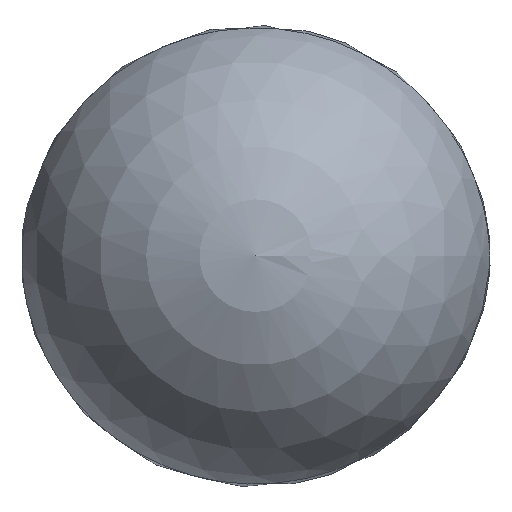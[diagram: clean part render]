
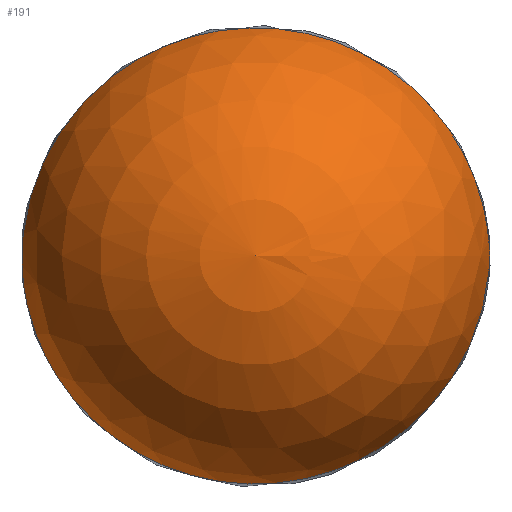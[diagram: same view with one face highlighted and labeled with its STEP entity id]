
A CAD part, top view. The second image highlights one B-rep face of the part: STEP entity #191.
In plain terms, the highlighted spherical face has radius 4.75 mm.
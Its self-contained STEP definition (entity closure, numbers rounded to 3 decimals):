
#12=SPHERICAL_SURFACE($,#213,4.75);
#14=B_SPLINE_CURVE_WITH_KNOTS($,3,(#425,#426,#427,#428,#429,#430,#431,#432,
#433,#434,#435,#436,#437,#438,#439,#440,#441,#442,#443,#444,#445,#446,#447,
#448,#449,#450,#451,#452,#453),.UNSPECIFIED.,.F.,.F.,(4,1,1,1,1,1,1,1,1,
1,1,1,1,1,1,1,1,1,1,1,1,1,1,1,1,1,4),(0.,0.014,0.029,
0.057,0.114,0.229,0.286,
0.343,0.457,0.514,0.571,
0.629,0.686,0.743,0.744,
0.745,0.747,0.75,0.757,
0.764,0.766,0.768,0.77,
0.771,0.771,0.772,0.8),
 .UNSPECIFIED.);
#16=B_SPLINE_CURVE_WITH_KNOTS($,3,(#482,#483,#484,#485,#486),
 .UNSPECIFIED.,.F.,.F.,(4,1,4),(0.,0.068,0.119),
 .UNSPECIFIED.);
#18=B_SPLINE_CURVE_WITH_KNOTS($,3,(#600,#601,#602,#603,#604,#605,#606,#607,
#608,#609,#610,#611,#612,#613,#614,#615,#616,#617,#618,#619,#620,#621),
 .UNSPECIFIED.,.F.,.F.,(4,1,1,1,1,1,1,1,1,1,1,1,1,1,1,1,1,1,1,4),(0.,0.026,
0.027,0.027,0.028,0.03,
0.033,0.039,0.046,0.048,
0.049,0.053,0.105,0.21,
0.315,0.42,0.525,0.63,
0.683,0.735),.UNSPECIFIED.);
#20=B_SPLINE_CURVE_WITH_KNOTS($,3,(#652,#653,#654,#655,#656,#657),
 .UNSPECIFIED.,.F.,.F.,(4,1,1,4),(0.,0.015,
0.025,0.036),.UNSPECIFIED.);
#53=FACE_OUTER_BOUND($,#69,.T.);
#69=EDGE_LOOP($,(#161,#162,#163,#164));
#90=VERTEX_POINT($,#390);
#93=VERTEX_POINT($,#423);
#95=VERTEX_POINT($,#480);
#97=VERTEX_POINT($,#598);
#110=EDGE_CURVE($,#93,#90,#14,.T.);
#113=EDGE_CURVE($,#95,#93,#16,.T.);
#116=EDGE_CURVE($,#97,#95,#18,.T.);
#118=EDGE_CURVE($,#90,#97,#20,.T.);
#161=ORIENTED_EDGE($,*,*,#110,.F.);
#162=ORIENTED_EDGE($,*,*,#113,.F.);
#163=ORIENTED_EDGE($,*,*,#116,.F.);
#164=ORIENTED_EDGE($,*,*,#118,.F.);
#191=ADVANCED_FACE($,(#53),#12,.T.);
#213=AXIS2_PLACEMENT_3D($,#758,#250,#251);
#250=DIRECTION('center_axis',(0.,0.,1.));
#251=DIRECTION('ref_axis',(1.,0.,0.));
#390=CARTESIAN_POINT('',(4.699,0.302,5.372));
#423=CARTESIAN_POINT('',(-4.683,0.454,5.4));
#425=CARTESIAN_POINT('Ctrl Pts',(-4.683,0.454,5.4));
#426=CARTESIAN_POINT('Ctrl Pts',(-4.674,0.535,5.41));
#427=CARTESIAN_POINT('Ctrl Pts',(-4.651,0.697,5.429));
#428=CARTESIAN_POINT('Ctrl Pts',(-4.589,1.018,5.466));
#429=CARTESIAN_POINT('Ctrl Pts',(-4.435,1.572,5.535));
#430=CARTESIAN_POINT('Ctrl Pts',(-3.951,2.622,5.676));
#431=CARTESIAN_POINT('Ctrl Pts',(-3.033,3.608,5.812));
#432=CARTESIAN_POINT('Ctrl Pts',(-1.87,4.252,5.898));
#433=CARTESIAN_POINT('Ctrl Pts',(-0.596,4.642,5.951));
#434=CARTESIAN_POINT('Ctrl Pts',(0.755,4.619,5.951));
#435=CARTESIAN_POINT('Ctrl Pts',(2.017,4.184,5.899));
#436=CARTESIAN_POINT('Ctrl Pts',(2.868,3.673,5.834));
#437=CARTESIAN_POINT('Ctrl Pts',(3.598,2.994,5.744));
#438=CARTESIAN_POINT('Ctrl Pts',(4.163,2.185,5.635));
#439=CARTESIAN_POINT('Ctrl Pts',(4.423,1.57,5.552));
#440=CARTESIAN_POINT('Ctrl Pts',(4.52,1.247,5.51));
#441=CARTESIAN_POINT('Ctrl Pts',(4.526,1.228,5.507));
#442=CARTESIAN_POINT('Ctrl Pts',(4.536,1.193,5.503));
#443=CARTESIAN_POINT('Ctrl Pts',(4.555,1.124,5.494));
#444=CARTESIAN_POINT('Ctrl Pts',(4.581,1.025,5.481));
#445=CARTESIAN_POINT('Ctrl Pts',(4.601,0.936,5.469));
#446=CARTESIAN_POINT('Ctrl Pts',(4.614,0.876,5.461));
#447=CARTESIAN_POINT('Ctrl Pts',(4.62,0.845,5.457));
#448=CARTESIAN_POINT('Ctrl Pts',(4.625,0.82,5.454));
#449=CARTESIAN_POINT('Ctrl Pts',(4.629,0.803,5.451));
#450=CARTESIAN_POINT('Ctrl Pts',(4.631,0.793,5.45));
#451=CARTESIAN_POINT('Ctrl Pts',(4.662,0.627,5.428));
#452=CARTESIAN_POINT('Ctrl Pts',(4.684,0.461,5.413));
#453=CARTESIAN_POINT('Ctrl Pts',(4.699,0.302,5.372));
#480=CARTESIAN_POINT('',(-4.433,-1.569,5.418));
#482=CARTESIAN_POINT('Ctrl Pts',(-4.433,-1.569,5.418));
#483=CARTESIAN_POINT('Ctrl Pts',(-4.571,-1.206,5.359));
#484=CARTESIAN_POINT('Ctrl Pts',(-4.727,-0.528,5.3));
#485=CARTESIAN_POINT('Ctrl Pts',(-4.716,0.163,5.365));
#486=CARTESIAN_POINT('Ctrl Pts',(-4.683,0.454,5.4));
#598=CARTESIAN_POINT('',(4.699,-0.302,5.372));
#600=CARTESIAN_POINT('Ctrl Pts',(4.699,-0.302,5.372));
#601=CARTESIAN_POINT('Ctrl Pts',(4.685,-0.448,5.409));
#602=CARTESIAN_POINT('Ctrl Pts',(4.666,-0.6,5.426));
#603=CARTESIAN_POINT('Ctrl Pts',(4.638,-0.752,5.448));
#604=CARTESIAN_POINT('Ctrl Pts',(4.636,-0.762,5.449));
#605=CARTESIAN_POINT('Ctrl Pts',(4.633,-0.778,5.452));
#606=CARTESIAN_POINT('Ctrl Pts',(4.627,-0.81,5.456));
#607=CARTESIAN_POINT('Ctrl Pts',(4.614,-0.874,5.465));
#608=CARTESIAN_POINT('Ctrl Pts',(4.594,-0.966,5.478));
#609=CARTESIAN_POINT('Ctrl Pts',(4.574,-1.048,5.49));
#610=CARTESIAN_POINT('Ctrl Pts',(4.56,-1.102,5.498));
#611=CARTESIAN_POINT('Ctrl Pts',(4.55,-1.138,5.503));
#612=CARTESIAN_POINT('Ctrl Pts',(4.462,-1.455,5.547));
#613=CARTESIAN_POINT('Ctrl Pts',(4.125,-2.314,5.67));
#614=CARTESIAN_POINT('Ctrl Pts',(3.172,-3.529,5.838));
#615=CARTESIAN_POINT('Ctrl Pts',(1.569,-4.451,5.946));
#616=CARTESIAN_POINT('Ctrl Pts',(-0.279,-4.709,5.959));
#617=CARTESIAN_POINT('Ctrl Pts',(-2.076,-4.257,5.874));
#618=CARTESIAN_POINT('Ctrl Pts',(-3.326,-3.35,5.72));
#619=CARTESIAN_POINT('Ctrl Pts',(-4.061,-2.387,5.554));
#620=CARTESIAN_POINT('Ctrl Pts',(-4.327,-1.849,5.464));
#621=CARTESIAN_POINT('Ctrl Pts',(-4.433,-1.569,5.418));
#652=CARTESIAN_POINT('Ctrl Pts',(4.699,0.302,5.372));
#653=CARTESIAN_POINT('Ctrl Pts',(4.708,0.218,5.35));
#654=CARTESIAN_POINT('Ctrl Pts',(4.717,0.074,5.317));
#655=CARTESIAN_POINT('Ctrl Pts',(4.714,-0.133,5.33));
#656=CARTESIAN_POINT('Ctrl Pts',(4.705,-0.246,5.357));
#657=CARTESIAN_POINT('Ctrl Pts',(4.699,-0.302,5.372));
#758=CARTESIAN_POINT('Origin',(0.,0.,
4.75));
